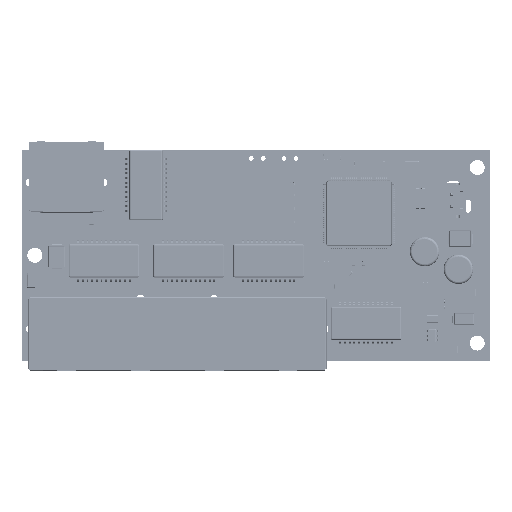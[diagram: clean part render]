
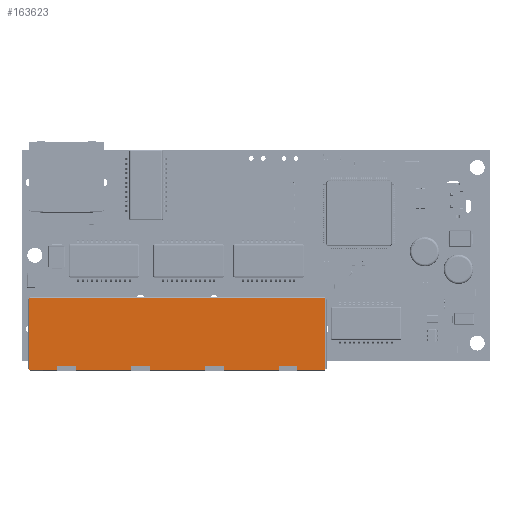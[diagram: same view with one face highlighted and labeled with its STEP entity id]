
A CAD part, top view. The second image highlights one B-rep face of the part: STEP entity #163623.
In plain terms, the highlighted planar face has unit normal (0, 0, 1).
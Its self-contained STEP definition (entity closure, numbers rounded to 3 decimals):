
#163623 = ADVANCED_FACE('',(#163624),#163786,.T.);
#163624 = FACE_BOUND('',#163625,.T.);
#163625 = EDGE_LOOP('',(#163626,#163636,#163644,#163652,#163660,#163668,
    #163676,#163684,#163692,#163700,#163708,#163716,#163724,#163732,
    #163740,#163748,#163756,#163764,#163772,#163780));
#163626 = ORIENTED_EDGE('',*,*,#163627,.T.);
#163627 = EDGE_CURVE('',#163628,#163630,#163632,.T.);
#163628 = VERTEX_POINT('',#163629);
#163629 = CARTESIAN_POINT('',(9.87,-5.224,
    13.3));
#163630 = VERTEX_POINT('',#163631);
#163631 = CARTESIAN_POINT('',(21.62,-5.224,
    13.3));
#163632 = LINE('',#163633,#163634);
#163633 = CARTESIAN_POINT('',(-31.629,-5.224,
    13.3));
#163634 = VECTOR('',#163635,1.);
#163635 = DIRECTION('',(1.,0.,0.));
#163636 = ORIENTED_EDGE('',*,*,#163637,.T.);
#163637 = EDGE_CURVE('',#163630,#163638,#163640,.T.);
#163638 = VERTEX_POINT('',#163639);
#163639 = CARTESIAN_POINT('',(21.62,-4.475,
    13.3));
#163640 = LINE('',#163641,#163642);
#163641 = CARTESIAN_POINT('',(21.62,2.4,
    13.3));
#163642 = VECTOR('',#163643,1.);
#163643 = DIRECTION('',(0.,1.,0.));
#163644 = ORIENTED_EDGE('',*,*,#163645,.T.);
#163645 = EDGE_CURVE('',#163638,#163646,#163648,.T.);
#163646 = VERTEX_POINT('',#163647);
#163647 = CARTESIAN_POINT('',(25.62,-4.475,
    13.3));
#163648 = LINE('',#163649,#163650);
#163649 = CARTESIAN_POINT('',(-0.005,-4.475,
    13.3));
#163650 = VECTOR('',#163651,1.);
#163651 = DIRECTION('',(1.,0.,0.));
#163652 = ORIENTED_EDGE('',*,*,#163653,.F.);
#163653 = EDGE_CURVE('',#163654,#163646,#163656,.T.);
#163654 = VERTEX_POINT('',#163655);
#163655 = CARTESIAN_POINT('',(25.62,-5.224,
    13.3));
#163656 = LINE('',#163657,#163658);
#163657 = CARTESIAN_POINT('',(25.62,2.4,
    13.3));
#163658 = VECTOR('',#163659,1.);
#163659 = DIRECTION('',(0.,1.,0.));
#163660 = ORIENTED_EDGE('',*,*,#163661,.T.);
#163661 = EDGE_CURVE('',#163654,#163662,#163664,.T.);
#163662 = VERTEX_POINT('',#163663);
#163663 = CARTESIAN_POINT('',(31.619,-5.224,
    13.3));
#163664 = LINE('',#163665,#163666);
#163665 = CARTESIAN_POINT('',(-31.629,-5.224,
    13.3));
#163666 = VECTOR('',#163667,1.);
#163667 = DIRECTION('',(1.,0.,0.));
#163668 = ORIENTED_EDGE('',*,*,#163669,.T.);
#163669 = EDGE_CURVE('',#163662,#163670,#163672,.T.);
#163670 = VERTEX_POINT('',#163671);
#163671 = CARTESIAN_POINT('',(31.619,10.024,
    13.3));
#163672 = LINE('',#163673,#163674);
#163673 = CARTESIAN_POINT('',(31.619,-5.224,
    13.3));
#163674 = VECTOR('',#163675,1.);
#163675 = DIRECTION('',(0.,1.,0.));
#163676 = ORIENTED_EDGE('',*,*,#163677,.T.);
#163677 = EDGE_CURVE('',#163670,#163678,#163680,.T.);
#163678 = VERTEX_POINT('',#163679);
#163679 = CARTESIAN_POINT('',(-31.629,10.024,
    13.3));
#163680 = LINE('',#163681,#163682);
#163681 = CARTESIAN_POINT('',(31.619,10.024,
    13.3));
#163682 = VECTOR('',#163683,1.);
#163683 = DIRECTION('',(-1.,-0.,-0.));
#163684 = ORIENTED_EDGE('',*,*,#163685,.T.);
#163685 = EDGE_CURVE('',#163678,#163686,#163688,.T.);
#163686 = VERTEX_POINT('',#163687);
#163687 = CARTESIAN_POINT('',(-31.629,-5.224,
    13.3));
#163688 = LINE('',#163689,#163690);
#163689 = CARTESIAN_POINT('',(-31.629,10.024,
    13.3));
#163690 = VECTOR('',#163691,1.);
#163691 = DIRECTION('',(0.,-1.,0.));
#163692 = ORIENTED_EDGE('',*,*,#163693,.T.);
#163693 = EDGE_CURVE('',#163686,#163694,#163696,.T.);
#163694 = VERTEX_POINT('',#163695);
#163695 = CARTESIAN_POINT('',(-25.63,-5.224,
    13.3));
#163696 = LINE('',#163697,#163698);
#163697 = CARTESIAN_POINT('',(-31.629,-5.224,
    13.3));
#163698 = VECTOR('',#163699,1.);
#163699 = DIRECTION('',(1.,0.,0.));
#163700 = ORIENTED_EDGE('',*,*,#163701,.T.);
#163701 = EDGE_CURVE('',#163694,#163702,#163704,.T.);
#163702 = VERTEX_POINT('',#163703);
#163703 = CARTESIAN_POINT('',(-25.63,-4.475,
    13.3));
#163704 = LINE('',#163705,#163706);
#163705 = CARTESIAN_POINT('',(-25.63,2.4,
    13.3));
#163706 = VECTOR('',#163707,1.);
#163707 = DIRECTION('',(0.,1.,0.));
#163708 = ORIENTED_EDGE('',*,*,#163709,.T.);
#163709 = EDGE_CURVE('',#163702,#163710,#163712,.T.);
#163710 = VERTEX_POINT('',#163711);
#163711 = CARTESIAN_POINT('',(-21.63,-4.475,
    13.3));
#163712 = LINE('',#163713,#163714);
#163713 = CARTESIAN_POINT('',(-0.005,-4.475,
    13.3));
#163714 = VECTOR('',#163715,1.);
#163715 = DIRECTION('',(1.,0.,0.));
#163716 = ORIENTED_EDGE('',*,*,#163717,.F.);
#163717 = EDGE_CURVE('',#163718,#163710,#163720,.T.);
#163718 = VERTEX_POINT('',#163719);
#163719 = CARTESIAN_POINT('',(-21.63,-5.224,
    13.3));
#163720 = LINE('',#163721,#163722);
#163721 = CARTESIAN_POINT('',(-21.63,2.4,
    13.3));
#163722 = VECTOR('',#163723,1.);
#163723 = DIRECTION('',(0.,1.,0.));
#163724 = ORIENTED_EDGE('',*,*,#163725,.T.);
#163725 = EDGE_CURVE('',#163718,#163726,#163728,.T.);
#163726 = VERTEX_POINT('',#163727);
#163727 = CARTESIAN_POINT('',(-9.88,-5.224,
    13.3));
#163728 = LINE('',#163729,#163730);
#163729 = CARTESIAN_POINT('',(-31.629,-5.224,
    13.3));
#163730 = VECTOR('',#163731,1.);
#163731 = DIRECTION('',(1.,0.,0.));
#163732 = ORIENTED_EDGE('',*,*,#163733,.T.);
#163733 = EDGE_CURVE('',#163726,#163734,#163736,.T.);
#163734 = VERTEX_POINT('',#163735);
#163735 = CARTESIAN_POINT('',(-9.88,-4.475,
    13.3));
#163736 = LINE('',#163737,#163738);
#163737 = CARTESIAN_POINT('',(-9.88,2.4,
    13.3));
#163738 = VECTOR('',#163739,1.);
#163739 = DIRECTION('',(0.,1.,0.));
#163740 = ORIENTED_EDGE('',*,*,#163741,.T.);
#163741 = EDGE_CURVE('',#163734,#163742,#163744,.T.);
#163742 = VERTEX_POINT('',#163743);
#163743 = CARTESIAN_POINT('',(-5.88,-4.475,
    13.3));
#163744 = LINE('',#163745,#163746);
#163745 = CARTESIAN_POINT('',(-0.005,-4.475,
    13.3));
#163746 = VECTOR('',#163747,1.);
#163747 = DIRECTION('',(1.,0.,0.));
#163748 = ORIENTED_EDGE('',*,*,#163749,.F.);
#163749 = EDGE_CURVE('',#163750,#163742,#163752,.T.);
#163750 = VERTEX_POINT('',#163751);
#163751 = CARTESIAN_POINT('',(-5.88,-5.224,
    13.3));
#163752 = LINE('',#163753,#163754);
#163753 = CARTESIAN_POINT('',(-5.88,2.4,
    13.3));
#163754 = VECTOR('',#163755,1.);
#163755 = DIRECTION('',(0.,1.,0.));
#163756 = ORIENTED_EDGE('',*,*,#163757,.T.);
#163757 = EDGE_CURVE('',#163750,#163758,#163760,.T.);
#163758 = VERTEX_POINT('',#163759);
#163759 = CARTESIAN_POINT('',(5.87,-5.224,
    13.3));
#163760 = LINE('',#163761,#163762);
#163761 = CARTESIAN_POINT('',(-31.629,-5.224,
    13.3));
#163762 = VECTOR('',#163763,1.);
#163763 = DIRECTION('',(1.,0.,0.));
#163764 = ORIENTED_EDGE('',*,*,#163765,.T.);
#163765 = EDGE_CURVE('',#163758,#163766,#163768,.T.);
#163766 = VERTEX_POINT('',#163767);
#163767 = CARTESIAN_POINT('',(5.87,-4.475,
    13.3));
#163768 = LINE('',#163769,#163770);
#163769 = CARTESIAN_POINT('',(5.87,2.4,
    13.3));
#163770 = VECTOR('',#163771,1.);
#163771 = DIRECTION('',(0.,1.,0.));
#163772 = ORIENTED_EDGE('',*,*,#163773,.T.);
#163773 = EDGE_CURVE('',#163766,#163774,#163776,.T.);
#163774 = VERTEX_POINT('',#163775);
#163775 = CARTESIAN_POINT('',(9.87,-4.475,
    13.3));
#163776 = LINE('',#163777,#163778);
#163777 = CARTESIAN_POINT('',(-0.005,-4.475,
    13.3));
#163778 = VECTOR('',#163779,1.);
#163779 = DIRECTION('',(1.,0.,0.));
#163780 = ORIENTED_EDGE('',*,*,#163781,.F.);
#163781 = EDGE_CURVE('',#163628,#163774,#163782,.T.);
#163782 = LINE('',#163783,#163784);
#163783 = CARTESIAN_POINT('',(9.87,2.4,
    13.3));
#163784 = VECTOR('',#163785,1.);
#163785 = DIRECTION('',(0.,1.,0.));
#163786 = PLANE('',#163787);
#163787 = AXIS2_PLACEMENT_3D('',#163788,#163789,#163790);
#163788 = CARTESIAN_POINT('',(-0.005,2.4,
    13.3));
#163789 = DIRECTION('',(0.,0.,1.));
#163790 = DIRECTION('',(1.,0.,0.));
